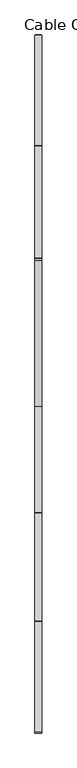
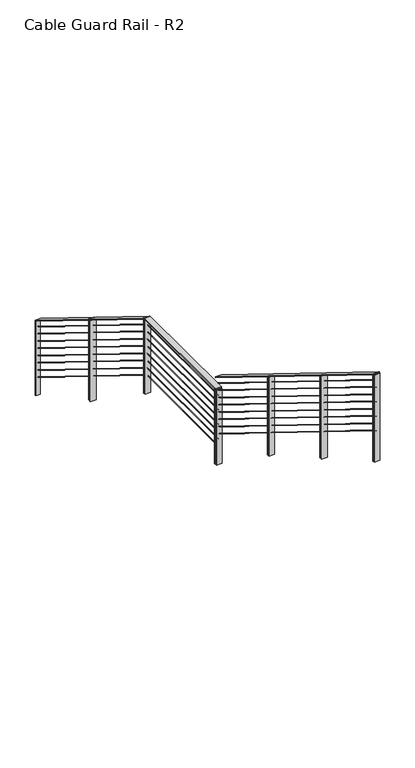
"""IFC4 building model written with IfcOpenShell, lengths in millimetres: railing geometry, Cable Guard Rail - R2."""

from ifc_helpers import new_model, si_unit, frame, origin, place, context, project, spatial, polyline, ellipse_curve, outline, extrude, faceted_brep, source, transform, mapped, element, save
from ifc_brep_helpers import plane_surface, cylinder_surface, advanced_brep


def cable_guard_rail_r2_ad3334e2(model_context):
    return source(origin(), model_context, "Body", "SolidModel", [
        faceted_brep([(37093.0654546, 230739.7703252, 291923.2583333), (37093.0654546, 230739.7703252, 291908.3326576), (37016.8654546, 230739.7703252, 291908.3326576), (37016.8654546, 230739.7703252, 291923.2583333), (37093.0654546, 228225.1703252, 293475.8333333), (37016.8654546, 228225.1703252, 293475.8333333), (37016.8654546, 228221.5655498, 293463.1333333), (37093.0654546, 228221.5655498, 293463.1333333)], [[[0, 1, 2, 3]], [[4, 5, 6, 7]], [[0, 3, 5, 4]], [[3, 2, 6, 5]], [[2, 1, 7, 6]], [[1, 0, 4, 7]]]),
        faceted_brep([(37093.0654546, 228225.1703252, 293475.8333333), (37093.0654546, 228221.5655498, 293463.1333333), (37016.8654546, 228221.5655498, 293463.1333333), (37016.8654546, 228225.1703252, 293475.8333333), (37093.0654546, 226588.7909796, 293475.8333333), (37016.8654546, 226588.7909796, 293475.8333333), (37016.8654546, 226585.1862042, 293463.1333333), (37093.0654546, 226585.1862042, 293463.1333333)], [[[0, 1, 2, 3]], [[4, 5, 6, 7]], [[0, 3, 5, 4]], [[3, 2, 6, 5]], [[2, 1, 7, 6]], [[1, 0, 4, 7]]]),
        faceted_brep([(37093.0654546, 226588.7909796, 293648.3416667), (37093.0654546, 226585.1862042, 293635.6416667), (37016.8654546, 226585.1862042, 293635.6416667), (37016.8654546, 226588.7909796, 293648.3416667), (37093.0654546, 222956.5909796, 295890.95), (37016.8654546, 222956.5909796, 295890.95), (37016.8654546, 222956.5909796, 295876.0243243), (37093.0654546, 222956.5909796, 295876.0243243)], [[[0, 1, 2, 3]], [[4, 5, 6, 7]], [[0, 3, 5, 4]], [[3, 2, 6, 5]], [[2, 1, 7, 6]], [[1, 0, 4, 7]]]),
        advanced_brep(
        [(37051.7904546, 230739.7703252, 291821.6583333), (37058.1404546, 230739.7703252, 291821.6583333), (37051.7904546, 228225.1703252, 293374.2333333), (37058.1404546, 228225.1703252, 293374.2333333)],
        [
            (0, 1, ellipse_curve(frame((37054.9654546, 230739.7703252, 291821.6583333), z_axis=(0.0, 1.0, 0.0), x_axis=(0.0, 0.0, -1.0)), 3.7314189, 3.175)),
            (1, 0, ellipse_curve(frame((37054.9654546, 230739.7703252, 291821.6583333), z_axis=(0.0, 1.0, 0.0), x_axis=(0.0, 0.0, -1.0)), 3.7314189, 3.175)),
            (2, 3, ellipse_curve(frame((37054.9654546, 228225.1703252, 293374.2333333), z_axis=(0.0, -0.9619986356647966, 0.2730542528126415), x_axis=(0.0, -0.2730542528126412, -0.9619986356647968)), 3.3004205, 3.175)),
            (3, 2, ellipse_curve(frame((37054.9654546, 228225.1703252, 293374.2333333), z_axis=(0.0, -0.9619986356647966, 0.2730542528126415), x_axis=(0.0, -0.2730542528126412, -0.9619986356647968)), 3.3004205, 3.175)),
            (1, 3),
            (2, 0),
        ],
        [
            plane_surface(frame((37054.9654546, 230739.7703252, 291821.6583333), z_axis=(0.0, 1.0, 0.0), x_axis=(0.0, 0.0, -1.0))),
            plane_surface(frame((37054.9654546, 228225.1703252, 293374.2333333), z_axis=(0.0, -0.9619986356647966, 0.2730542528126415), x_axis=(1.0, 0.0, 0.0))),
            cylinder_surface(frame((37054.9654546, 230739.7703252, 291821.6583333), z_axis=(0.0, 0.8508827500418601, -0.5253556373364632), x_axis=(1.0, 0.0, 0.0)), 3.175),
        ],
        [
            (0, [[1, 2]]),
            (1, [[3, 4]]),
            (2, [[-2, 5, -3, 6]]),
            (2, [[-1, -6, -4, -5]]),
        ],
    ),
        advanced_brep(
        [(37051.7904546, 228225.1703252, 293374.2333333), (37058.1404546, 228225.1703252, 293374.2333333), (37051.7904546, 226588.7909796, 293374.2333333), (37058.1404546, 226588.7909796, 293374.2333333)],
        [
            (0, 1, ellipse_curve(frame((37054.9654546, 228225.1703252, 293374.2333333), z_axis=(0.0, 0.9619986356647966, -0.2730542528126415), x_axis=(0.0, 0.27305425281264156, 0.9619986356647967)), 3.3004205, 3.175)),
            (1, 0, ellipse_curve(frame((37054.9654546, 228225.1703252, 293374.2333333), z_axis=(0.0, 0.9619986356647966, -0.2730542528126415), x_axis=(0.0, 0.27305425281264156, 0.9619986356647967)), 3.3004205, 3.175)),
            (2, 3, ellipse_curve(frame((37054.9654546, 226588.7909796, 293374.2333333), z_axis=(0.0, -0.9619986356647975, 0.27305425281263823), x_axis=(0.0, 0.27305425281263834, 0.9619986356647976)), 3.3004205, 3.175)),
            (3, 2, ellipse_curve(frame((37054.9654546, 226588.7909796, 293374.2333333), z_axis=(0.0, -0.9619986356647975, 0.27305425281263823), x_axis=(0.0, 0.27305425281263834, 0.9619986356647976)), 3.3004205, 3.175)),
            (1, 3),
            (2, 0),
        ],
        [
            plane_surface(frame((37054.9654546, 228225.1703252, 293374.2333333), z_axis=(0.0, 0.9619986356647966, -0.2730542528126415), x_axis=(1.0, 0.0, 0.0))),
            plane_surface(frame((37054.9654546, 226588.7909796, 293374.2333333), z_axis=(0.0, -0.9619986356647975, 0.27305425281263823), x_axis=(1.0, 0.0, 0.0))),
            cylinder_surface(frame((37054.9654546, 228225.1703252, 293374.2333333), z_axis=(0.0, 1.0, 0.0), x_axis=(1.0, 0.0, 0.0)), 3.175),
        ],
        [
            (0, [[1, 2]]),
            (1, [[3, 4]]),
            (2, [[-2, 5, -3, 6]]),
            (2, [[-1, -6, -4, -5]]),
        ],
    ),
        advanced_brep(
        [(37051.7904546, 226588.7909796, 293546.7416667), (37058.1404546, 226588.7909796, 293546.7416667), (37051.7904546, 222956.5909796, 295789.35), (37058.1404546, 222956.5909796, 295789.35)],
        [
            (0, 1, ellipse_curve(frame((37054.9654546, 226588.7909796, 293546.7416667), z_axis=(0.0, 0.9619986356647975, -0.27305425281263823), x_axis=(0.0, -0.27305425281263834, -0.9619986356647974)), 3.3004205, 3.175)),
            (1, 0, ellipse_curve(frame((37054.9654546, 226588.7909796, 293546.7416667), z_axis=(0.0, 0.9619986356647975, -0.27305425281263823), x_axis=(0.0, -0.27305425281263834, -0.9619986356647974)), 3.3004205, 3.175)),
            (2, 3, ellipse_curve(frame((37054.9654546, 222956.5909796, 295789.35), z_axis=(0.0, -1.0, 0.0), x_axis=(0.0, 0.0, -1.0)), 3.7314189, 3.175)),
            (3, 2, ellipse_curve(frame((37054.9654546, 222956.5909796, 295789.35), z_axis=(0.0, -1.0, 0.0), x_axis=(0.0, 0.0, -1.0)), 3.7314189, 3.175)),
            (1, 3),
            (2, 0),
        ],
        [
            plane_surface(frame((37054.9654546, 226588.7909796, 293546.7416667), z_axis=(0.0, 0.9619986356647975, -0.27305425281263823), x_axis=(1.0, 0.0, 0.0))),
            plane_surface(frame((37054.9654546, 222956.5909796, 295789.35), z_axis=(0.0, -1.0, 0.0), x_axis=(0.0, 0.0, -1.0))),
            cylinder_surface(frame((37054.9654546, 226588.7909796, 293546.7416667), z_axis=(0.0, 0.8508827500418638, -0.5253556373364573), x_axis=(1.0, 0.0, 0.0)), 3.175),
        ],
        [
            (0, [[1, 2]]),
            (1, [[3, 4]]),
            (2, [[-2, 5, -3, 6]]),
            (2, [[-1, -6, -4, -5]]),
        ],
    ),
        advanced_brep(
        [(37051.7904546, 230739.7703252, 291720.0583333), (37058.1404546, 230739.7703252, 291720.0583333), (37051.7904546, 228225.1703252, 293272.6333333), (37058.1404546, 228225.1703252, 293272.6333333)],
        [
            (0, 1, ellipse_curve(frame((37054.9654546, 230739.7703252, 291720.0583333), z_axis=(0.0, 1.0, 0.0), x_axis=(0.0, 0.0, -1.0)), 3.7314189, 3.175)),
            (1, 0, ellipse_curve(frame((37054.9654546, 230739.7703252, 291720.0583333), z_axis=(0.0, 1.0, 0.0), x_axis=(0.0, 0.0, -1.0)), 3.7314189, 3.175)),
            (2, 3, ellipse_curve(frame((37054.9654546, 228225.1703252, 293272.6333333), z_axis=(0.0, -0.9619986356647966, 0.2730542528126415), x_axis=(0.0, -0.2730542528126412, -0.9619986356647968)), 3.3004205, 3.175)),
            (3, 2, ellipse_curve(frame((37054.9654546, 228225.1703252, 293272.6333333), z_axis=(0.0, -0.9619986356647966, 0.2730542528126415), x_axis=(0.0, -0.2730542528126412, -0.9619986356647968)), 3.3004205, 3.175)),
            (1, 3),
            (2, 0),
        ],
        [
            plane_surface(frame((37054.9654546, 230739.7703252, 291720.0583333), z_axis=(0.0, 1.0, 0.0), x_axis=(0.0, 0.0, -1.0))),
            plane_surface(frame((37054.9654546, 228225.1703252, 293272.6333333), z_axis=(0.0, -0.9619986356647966, 0.2730542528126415), x_axis=(1.0, 0.0, 0.0))),
            cylinder_surface(frame((37054.9654546, 230739.7703252, 291720.0583333), z_axis=(0.0, 0.8508827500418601, -0.5253556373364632), x_axis=(1.0, 0.0, 0.0)), 3.175),
        ],
        [
            (0, [[1, 2]]),
            (1, [[3, 4]]),
            (2, [[-2, 5, -3, 6]]),
            (2, [[-1, -6, -4, -5]]),
        ],
    ),
        advanced_brep(
        [(37051.7904546, 228225.1703252, 293272.6333333), (37058.1404546, 228225.1703252, 293272.6333333), (37051.7904546, 226588.7909796, 293272.6333333), (37058.1404546, 226588.7909796, 293272.6333333)],
        [
            (0, 1, ellipse_curve(frame((37054.9654546, 228225.1703252, 293272.6333333), z_axis=(0.0, 0.9619986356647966, -0.2730542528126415), x_axis=(0.0, 0.27305425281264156, 0.9619986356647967)), 3.3004205, 3.175)),
            (1, 0, ellipse_curve(frame((37054.9654546, 228225.1703252, 293272.6333333), z_axis=(0.0, 0.9619986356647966, -0.2730542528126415), x_axis=(0.0, 0.27305425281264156, 0.9619986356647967)), 3.3004205, 3.175)),
            (2, 3, ellipse_curve(frame((37054.9654546, 226588.7909796, 293272.6333333), z_axis=(0.0, -0.9619986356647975, 0.27305425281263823), x_axis=(0.0, 0.27305425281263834, 0.9619986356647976)), 3.3004205, 3.175)),
            (3, 2, ellipse_curve(frame((37054.9654546, 226588.7909796, 293272.6333333), z_axis=(0.0, -0.9619986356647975, 0.27305425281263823), x_axis=(0.0, 0.27305425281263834, 0.9619986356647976)), 3.3004205, 3.175)),
            (1, 3),
            (2, 0),
        ],
        [
            plane_surface(frame((37054.9654546, 228225.1703252, 293272.6333333), z_axis=(0.0, 0.9619986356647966, -0.2730542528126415), x_axis=(1.0, 0.0, 0.0))),
            plane_surface(frame((37054.9654546, 226588.7909796, 293272.6333333), z_axis=(0.0, -0.9619986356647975, 0.27305425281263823), x_axis=(1.0, 0.0, 0.0))),
            cylinder_surface(frame((37054.9654546, 228225.1703252, 293272.6333333), z_axis=(0.0, 1.0, 0.0), x_axis=(1.0, 0.0, 0.0)), 3.175),
        ],
        [
            (0, [[1, 2]]),
            (1, [[3, 4]]),
            (2, [[-2, 5, -3, 6]]),
            (2, [[-1, -6, -4, -5]]),
        ],
    ),
        advanced_brep(
        [(37051.7904546, 226588.7909796, 293445.1416667), (37058.1404546, 226588.7909796, 293445.1416667), (37051.7904546, 222956.5909796, 295687.75), (37058.1404546, 222956.5909796, 295687.75)],
        [
            (0, 1, ellipse_curve(frame((37054.9654546, 226588.7909796, 293445.1416667), z_axis=(0.0, 0.9619986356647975, -0.27305425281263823), x_axis=(0.0, -0.27305425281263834, -0.9619986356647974)), 3.3004205, 3.175)),
            (1, 0, ellipse_curve(frame((37054.9654546, 226588.7909796, 293445.1416667), z_axis=(0.0, 0.9619986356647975, -0.27305425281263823), x_axis=(0.0, -0.27305425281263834, -0.9619986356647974)), 3.3004205, 3.175)),
            (2, 3, ellipse_curve(frame((37054.9654546, 222956.5909796, 295687.75), z_axis=(0.0, -1.0, 0.0), x_axis=(0.0, 0.0, -1.0)), 3.7314189, 3.175)),
            (3, 2, ellipse_curve(frame((37054.9654546, 222956.5909796, 295687.75), z_axis=(0.0, -1.0, 0.0), x_axis=(0.0, 0.0, -1.0)), 3.7314189, 3.175)),
            (1, 3),
            (2, 0),
        ],
        [
            plane_surface(frame((37054.9654546, 226588.7909796, 293445.1416667), z_axis=(0.0, 0.9619986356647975, -0.27305425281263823), x_axis=(1.0, 0.0, 0.0))),
            plane_surface(frame((37054.9654546, 222956.5909796, 295687.75), z_axis=(0.0, -1.0, 0.0), x_axis=(0.0, 0.0, -1.0))),
            cylinder_surface(frame((37054.9654546, 226588.7909796, 293445.1416667), z_axis=(0.0, 0.8508827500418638, -0.5253556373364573), x_axis=(1.0, 0.0, 0.0)), 3.175),
        ],
        [
            (0, [[1, 2]]),
            (1, [[3, 4]]),
            (2, [[-2, 5, -3, 6]]),
            (2, [[-1, -6, -4, -5]]),
        ],
    ),
        advanced_brep(
        [(37051.7904546, 230739.7703252, 291618.4583333), (37058.1404546, 230739.7703252, 291618.4583333), (37051.7904546, 228225.1703252, 293171.0333333), (37058.1404546, 228225.1703252, 293171.0333333)],
        [
            (0, 1, ellipse_curve(frame((37054.9654546, 230739.7703252, 291618.4583333), z_axis=(0.0, 1.0, 0.0), x_axis=(0.0, 0.0, -1.0)), 3.7314189, 3.175)),
            (1, 0, ellipse_curve(frame((37054.9654546, 230739.7703252, 291618.4583333), z_axis=(0.0, 1.0, 0.0), x_axis=(0.0, 0.0, -1.0)), 3.7314189, 3.175)),
            (2, 3, ellipse_curve(frame((37054.9654546, 228225.1703252, 293171.0333333), z_axis=(0.0, -0.9619986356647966, 0.2730542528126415), x_axis=(0.0, -0.2730542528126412, -0.9619986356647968)), 3.3004205, 3.175)),
            (3, 2, ellipse_curve(frame((37054.9654546, 228225.1703252, 293171.0333333), z_axis=(0.0, -0.9619986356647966, 0.2730542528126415), x_axis=(0.0, -0.2730542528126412, -0.9619986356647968)), 3.3004205, 3.175)),
            (1, 3),
            (2, 0),
        ],
        [
            plane_surface(frame((37054.9654546, 230739.7703252, 291618.4583333), z_axis=(0.0, 1.0, 0.0), x_axis=(0.0, 0.0, -1.0))),
            plane_surface(frame((37054.9654546, 228225.1703252, 293171.0333333), z_axis=(0.0, -0.9619986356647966, 0.2730542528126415), x_axis=(1.0, 0.0, 0.0))),
            cylinder_surface(frame((37054.9654546, 230739.7703252, 291618.4583333), z_axis=(0.0, 0.8508827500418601, -0.5253556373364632), x_axis=(1.0, 0.0, 0.0)), 3.175),
        ],
        [
            (0, [[1, 2]]),
            (1, [[3, 4]]),
            (2, [[-2, 5, -3, 6]]),
            (2, [[-1, -6, -4, -5]]),
        ],
    ),
        advanced_brep(
        [(37051.7904546, 228225.1703252, 293171.0333333), (37058.1404546, 228225.1703252, 293171.0333333), (37051.7904546, 226588.7909796, 293171.0333333), (37058.1404546, 226588.7909796, 293171.0333333)],
        [
            (0, 1, ellipse_curve(frame((37054.9654546, 228225.1703252, 293171.0333333), z_axis=(0.0, 0.9619986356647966, -0.2730542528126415), x_axis=(0.0, 0.27305425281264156, 0.9619986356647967)), 3.3004205, 3.175)),
            (1, 0, ellipse_curve(frame((37054.9654546, 228225.1703252, 293171.0333333), z_axis=(0.0, 0.9619986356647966, -0.2730542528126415), x_axis=(0.0, 0.27305425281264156, 0.9619986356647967)), 3.3004205, 3.175)),
            (2, 3, ellipse_curve(frame((37054.9654546, 226588.7909796, 293171.0333333), z_axis=(0.0, -0.9619986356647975, 0.27305425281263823), x_axis=(0.0, 0.27305425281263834, 0.9619986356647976)), 3.3004205, 3.175)),
            (3, 2, ellipse_curve(frame((37054.9654546, 226588.7909796, 293171.0333333), z_axis=(0.0, -0.9619986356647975, 0.27305425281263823), x_axis=(0.0, 0.27305425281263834, 0.9619986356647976)), 3.3004205, 3.175)),
            (1, 3),
            (2, 0),
        ],
        [
            plane_surface(frame((37054.9654546, 228225.1703252, 293171.0333333), z_axis=(0.0, 0.9619986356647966, -0.2730542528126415), x_axis=(1.0, 0.0, 0.0))),
            plane_surface(frame((37054.9654546, 226588.7909796, 293171.0333333), z_axis=(0.0, -0.9619986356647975, 0.27305425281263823), x_axis=(1.0, 0.0, 0.0))),
            cylinder_surface(frame((37054.9654546, 228225.1703252, 293171.0333333), z_axis=(0.0, 1.0, 0.0), x_axis=(1.0, 0.0, 0.0)), 3.175),
        ],
        [
            (0, [[1, 2]]),
            (1, [[3, 4]]),
            (2, [[-2, 5, -3, 6]]),
            (2, [[-1, -6, -4, -5]]),
        ],
    ),
        advanced_brep(
        [(37051.7904546, 226588.7909796, 293343.5416667), (37058.1404546, 226588.7909796, 293343.5416667), (37051.7904546, 222956.5909796, 295586.15), (37058.1404546, 222956.5909796, 295586.15)],
        [
            (0, 1, ellipse_curve(frame((37054.9654546, 226588.7909796, 293343.5416667), z_axis=(0.0, 0.9619986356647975, -0.27305425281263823), x_axis=(0.0, -0.27305425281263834, -0.9619986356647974)), 3.3004205, 3.175)),
            (1, 0, ellipse_curve(frame((37054.9654546, 226588.7909796, 293343.5416667), z_axis=(0.0, 0.9619986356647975, -0.27305425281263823), x_axis=(0.0, -0.27305425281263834, -0.9619986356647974)), 3.3004205, 3.175)),
            (2, 3, ellipse_curve(frame((37054.9654546, 222956.5909796, 295586.15), z_axis=(0.0, -1.0, 0.0), x_axis=(0.0, 0.0, -1.0)), 3.7314189, 3.175)),
            (3, 2, ellipse_curve(frame((37054.9654546, 222956.5909796, 295586.15), z_axis=(0.0, -1.0, 0.0), x_axis=(0.0, 0.0, -1.0)), 3.7314189, 3.175)),
            (1, 3),
            (2, 0),
        ],
        [
            plane_surface(frame((37054.9654546, 226588.7909796, 293343.5416667), z_axis=(0.0, 0.9619986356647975, -0.27305425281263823), x_axis=(1.0, 0.0, 0.0))),
            plane_surface(frame((37054.9654546, 222956.5909796, 295586.15), z_axis=(0.0, -1.0, 0.0), x_axis=(0.0, 0.0, -1.0))),
            cylinder_surface(frame((37054.9654546, 226588.7909796, 293343.5416667), z_axis=(0.0, 0.8508827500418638, -0.5253556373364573), x_axis=(1.0, 0.0, 0.0)), 3.175),
        ],
        [
            (0, [[1, 2]]),
            (1, [[3, 4]]),
            (2, [[-2, 5, -3, 6]]),
            (2, [[-1, -6, -4, -5]]),
        ],
    ),
        advanced_brep(
        [(37051.7904546, 230739.7703252, 291516.8583333), (37058.1404546, 230739.7703252, 291516.8583333), (37051.7904546, 228225.1703252, 293069.4333333), (37058.1404546, 228225.1703252, 293069.4333333)],
        [
            (0, 1, ellipse_curve(frame((37054.9654546, 230739.7703252, 291516.8583333), z_axis=(0.0, 1.0, 0.0), x_axis=(0.0, 0.0, -1.0)), 3.7314189, 3.175)),
            (1, 0, ellipse_curve(frame((37054.9654546, 230739.7703252, 291516.8583333), z_axis=(0.0, 1.0, 0.0), x_axis=(0.0, 0.0, -1.0)), 3.7314189, 3.175)),
            (2, 3, ellipse_curve(frame((37054.9654546, 228225.1703252, 293069.4333333), z_axis=(0.0, -0.9619986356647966, 0.2730542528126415), x_axis=(0.0, -0.2730542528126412, -0.9619986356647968)), 3.3004205, 3.175)),
            (3, 2, ellipse_curve(frame((37054.9654546, 228225.1703252, 293069.4333333), z_axis=(0.0, -0.9619986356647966, 0.2730542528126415), x_axis=(0.0, -0.2730542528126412, -0.9619986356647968)), 3.3004205, 3.175)),
            (1, 3),
            (2, 0),
        ],
        [
            plane_surface(frame((37054.9654546, 230739.7703252, 291516.8583333), z_axis=(0.0, 1.0, 0.0), x_axis=(0.0, 0.0, -1.0))),
            plane_surface(frame((37054.9654546, 228225.1703252, 293069.4333333), z_axis=(0.0, -0.9619986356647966, 0.2730542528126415), x_axis=(1.0, 0.0, 0.0))),
            cylinder_surface(frame((37054.9654546, 230739.7703252, 291516.8583333), z_axis=(0.0, 0.8508827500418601, -0.5253556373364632), x_axis=(1.0, 0.0, 0.0)), 3.175),
        ],
        [
            (0, [[1, 2]]),
            (1, [[3, 4]]),
            (2, [[-2, 5, -3, 6]]),
            (2, [[-1, -6, -4, -5]]),
        ],
    ),
        advanced_brep(
        [(37051.7904546, 228225.1703252, 293069.4333333), (37058.1404546, 228225.1703252, 293069.4333333), (37051.7904546, 226588.7909796, 293069.4333333), (37058.1404546, 226588.7909796, 293069.4333333)],
        [
            (0, 1, ellipse_curve(frame((37054.9654546, 228225.1703252, 293069.4333333), z_axis=(0.0, 0.9619986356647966, -0.2730542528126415), x_axis=(0.0, 0.27305425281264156, 0.9619986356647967)), 3.3004205, 3.175)),
            (1, 0, ellipse_curve(frame((37054.9654546, 228225.1703252, 293069.4333333), z_axis=(0.0, 0.9619986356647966, -0.2730542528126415), x_axis=(0.0, 0.27305425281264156, 0.9619986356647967)), 3.3004205, 3.175)),
            (2, 3, ellipse_curve(frame((37054.9654546, 226588.7909796, 293069.4333333), z_axis=(0.0, -0.9619986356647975, 0.27305425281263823), x_axis=(0.0, 0.27305425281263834, 0.9619986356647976)), 3.3004205, 3.175)),
            (3, 2, ellipse_curve(frame((37054.9654546, 226588.7909796, 293069.4333333), z_axis=(0.0, -0.9619986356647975, 0.27305425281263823), x_axis=(0.0, 0.27305425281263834, 0.9619986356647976)), 3.3004205, 3.175)),
            (1, 3),
            (2, 0),
        ],
        [
            plane_surface(frame((37054.9654546, 228225.1703252, 293069.4333333), z_axis=(0.0, 0.9619986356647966, -0.2730542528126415), x_axis=(1.0, 0.0, 0.0))),
            plane_surface(frame((37054.9654546, 226588.7909796, 293069.4333333), z_axis=(0.0, -0.9619986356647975, 0.27305425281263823), x_axis=(1.0, 0.0, 0.0))),
            cylinder_surface(frame((37054.9654546, 228225.1703252, 293069.4333333), z_axis=(0.0, 1.0, 0.0), x_axis=(1.0, 0.0, 0.0)), 3.175),
        ],
        [
            (0, [[1, 2]]),
            (1, [[3, 4]]),
            (2, [[-2, 5, -3, 6]]),
            (2, [[-1, -6, -4, -5]]),
        ],
    ),
        advanced_brep(
        [(37051.7904546, 226588.7909796, 293241.9416667), (37058.1404546, 226588.7909796, 293241.9416667), (37051.7904546, 222956.5909796, 295484.55), (37058.1404546, 222956.5909796, 295484.55)],
        [
            (0, 1, ellipse_curve(frame((37054.9654546, 226588.7909796, 293241.9416667), z_axis=(0.0, 0.9619986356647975, -0.27305425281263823), x_axis=(0.0, -0.27305425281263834, -0.9619986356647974)), 3.3004205, 3.175)),
            (1, 0, ellipse_curve(frame((37054.9654546, 226588.7909796, 293241.9416667), z_axis=(0.0, 0.9619986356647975, -0.27305425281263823), x_axis=(0.0, -0.27305425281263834, -0.9619986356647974)), 3.3004205, 3.175)),
            (2, 3, ellipse_curve(frame((37054.9654546, 222956.5909796, 295484.55), z_axis=(0.0, -1.0, 0.0), x_axis=(0.0, 0.0, -1.0)), 3.7314189, 3.175)),
            (3, 2, ellipse_curve(frame((37054.9654546, 222956.5909796, 295484.55), z_axis=(0.0, -1.0, 0.0), x_axis=(0.0, 0.0, -1.0)), 3.7314189, 3.175)),
            (1, 3),
            (2, 0),
        ],
        [
            plane_surface(frame((37054.9654546, 226588.7909796, 293241.9416667), z_axis=(0.0, 0.9619986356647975, -0.27305425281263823), x_axis=(1.0, 0.0, 0.0))),
            plane_surface(frame((37054.9654546, 222956.5909796, 295484.55), z_axis=(0.0, -1.0, 0.0), x_axis=(0.0, 0.0, -1.0))),
            cylinder_surface(frame((37054.9654546, 226588.7909796, 293241.9416667), z_axis=(0.0, 0.8508827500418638, -0.5253556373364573), x_axis=(1.0, 0.0, 0.0)), 3.175),
        ],
        [
            (0, [[1, 2]]),
            (1, [[3, 4]]),
            (2, [[-2, 5, -3, 6]]),
            (2, [[-1, -6, -4, -5]]),
        ],
    ),
        advanced_brep(
        [(37051.7904546, 230739.7703252, 291415.2583333), (37058.1404546, 230739.7703252, 291415.2583333), (37051.7904546, 228225.1703252, 292967.8333333), (37058.1404546, 228225.1703252, 292967.8333333)],
        [
            (0, 1, ellipse_curve(frame((37054.9654546, 230739.7703252, 291415.2583333), z_axis=(0.0, 1.0, 0.0), x_axis=(0.0, 0.0, -1.0)), 3.7314189, 3.175)),
            (1, 0, ellipse_curve(frame((37054.9654546, 230739.7703252, 291415.2583333), z_axis=(0.0, 1.0, 0.0), x_axis=(0.0, 0.0, -1.0)), 3.7314189, 3.175)),
            (2, 3, ellipse_curve(frame((37054.9654546, 228225.1703252, 292967.8333333), z_axis=(0.0, -0.9619986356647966, 0.2730542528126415), x_axis=(0.0, -0.2730542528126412, -0.9619986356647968)), 3.3004205, 3.175)),
            (3, 2, ellipse_curve(frame((37054.9654546, 228225.1703252, 292967.8333333), z_axis=(0.0, -0.9619986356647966, 0.2730542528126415), x_axis=(0.0, -0.2730542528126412, -0.9619986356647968)), 3.3004205, 3.175)),
            (1, 3),
            (2, 0),
        ],
        [
            plane_surface(frame((37054.9654546, 230739.7703252, 291415.2583333), z_axis=(0.0, 1.0, 0.0), x_axis=(0.0, 0.0, -1.0))),
            plane_surface(frame((37054.9654546, 228225.1703252, 292967.8333333), z_axis=(0.0, -0.9619986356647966, 0.2730542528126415), x_axis=(1.0, 0.0, 0.0))),
            cylinder_surface(frame((37054.9654546, 230739.7703252, 291415.2583333), z_axis=(0.0, 0.8508827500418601, -0.5253556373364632), x_axis=(1.0, 0.0, 0.0)), 3.175),
        ],
        [
            (0, [[1, 2]]),
            (1, [[3, 4]]),
            (2, [[-2, 5, -3, 6]]),
            (2, [[-1, -6, -4, -5]]),
        ],
    ),
        advanced_brep(
        [(37051.7904546, 228225.1703252, 292967.8333333), (37058.1404546, 228225.1703252, 292967.8333333), (37051.7904546, 226588.7909796, 292967.8333333), (37058.1404546, 226588.7909796, 292967.8333333)],
        [
            (0, 1, ellipse_curve(frame((37054.9654546, 228225.1703252, 292967.8333333), z_axis=(0.0, 0.9619986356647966, -0.2730542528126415), x_axis=(0.0, 0.27305425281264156, 0.9619986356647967)), 3.3004205, 3.175)),
            (1, 0, ellipse_curve(frame((37054.9654546, 228225.1703252, 292967.8333333), z_axis=(0.0, 0.9619986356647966, -0.2730542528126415), x_axis=(0.0, 0.27305425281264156, 0.9619986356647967)), 3.3004205, 3.175)),
            (2, 3, ellipse_curve(frame((37054.9654546, 226588.7909796, 292967.8333333), z_axis=(0.0, -0.9619986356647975, 0.27305425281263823), x_axis=(0.0, 0.27305425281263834, 0.9619986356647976)), 3.3004205, 3.175)),
            (3, 2, ellipse_curve(frame((37054.9654546, 226588.7909796, 292967.8333333), z_axis=(0.0, -0.9619986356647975, 0.27305425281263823), x_axis=(0.0, 0.27305425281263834, 0.9619986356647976)), 3.3004205, 3.175)),
            (1, 3),
            (2, 0),
        ],
        [
            plane_surface(frame((37054.9654546, 228225.1703252, 292967.8333333), z_axis=(0.0, 0.9619986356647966, -0.2730542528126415), x_axis=(1.0, 0.0, 0.0))),
            plane_surface(frame((37054.9654546, 226588.7909796, 292967.8333333), z_axis=(0.0, -0.9619986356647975, 0.27305425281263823), x_axis=(1.0, 0.0, 0.0))),
            cylinder_surface(frame((37054.9654546, 228225.1703252, 292967.8333333), z_axis=(0.0, 1.0, 0.0), x_axis=(1.0, 0.0, 0.0)), 3.175),
        ],
        [
            (0, [[1, 2]]),
            (1, [[3, 4]]),
            (2, [[-2, 5, -3, 6]]),
            (2, [[-1, -6, -4, -5]]),
        ],
    ),
        advanced_brep(
        [(37051.7904546, 226588.7909796, 293140.3416667), (37058.1404546, 226588.7909796, 293140.3416667), (37051.7904546, 222956.5909796, 295382.95), (37058.1404546, 222956.5909796, 295382.95)],
        [
            (0, 1, ellipse_curve(frame((37054.9654546, 226588.7909796, 293140.3416667), z_axis=(0.0, 0.9619986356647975, -0.27305425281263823), x_axis=(0.0, -0.27305425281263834, -0.9619986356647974)), 3.3004205, 3.175)),
            (1, 0, ellipse_curve(frame((37054.9654546, 226588.7909796, 293140.3416667), z_axis=(0.0, 0.9619986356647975, -0.27305425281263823), x_axis=(0.0, -0.27305425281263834, -0.9619986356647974)), 3.3004205, 3.175)),
            (2, 3, ellipse_curve(frame((37054.9654546, 222956.5909796, 295382.95), z_axis=(0.0, -1.0, 0.0), x_axis=(0.0, 0.0, -1.0)), 3.7314189, 3.175)),
            (3, 2, ellipse_curve(frame((37054.9654546, 222956.5909796, 295382.95), z_axis=(0.0, -1.0, 0.0), x_axis=(0.0, 0.0, -1.0)), 3.7314189, 3.175)),
            (1, 3),
            (2, 0),
        ],
        [
            plane_surface(frame((37054.9654546, 226588.7909796, 293140.3416667), z_axis=(0.0, 0.9619986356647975, -0.27305425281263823), x_axis=(1.0, 0.0, 0.0))),
            plane_surface(frame((37054.9654546, 222956.5909796, 295382.95), z_axis=(0.0, -1.0, 0.0), x_axis=(0.0, 0.0, -1.0))),
            cylinder_surface(frame((37054.9654546, 226588.7909796, 293140.3416667), z_axis=(0.0, 0.8508827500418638, -0.5253556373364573), x_axis=(1.0, 0.0, 0.0)), 3.175),
        ],
        [
            (0, [[1, 2]]),
            (1, [[3, 4]]),
            (2, [[-2, 5, -3, 6]]),
            (2, [[-1, -6, -4, -5]]),
        ],
    ),
        advanced_brep(
        [(37051.7904546, 230739.7703252, 291313.6583333), (37058.1404546, 230739.7703252, 291313.6583333), (37051.7904546, 228225.1703252, 292866.2333333), (37058.1404546, 228225.1703252, 292866.2333333)],
        [
            (0, 1, ellipse_curve(frame((37054.9654546, 230739.7703252, 291313.6583333), z_axis=(0.0, 1.0, 0.0), x_axis=(0.0, 0.0, -1.0)), 3.7314189, 3.175)),
            (1, 0, ellipse_curve(frame((37054.9654546, 230739.7703252, 291313.6583333), z_axis=(0.0, 1.0, 0.0), x_axis=(0.0, 0.0, -1.0)), 3.7314189, 3.175)),
            (2, 3, ellipse_curve(frame((37054.9654546, 228225.1703252, 292866.2333333), z_axis=(0.0, -0.9619986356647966, 0.2730542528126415), x_axis=(0.0, -0.2730542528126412, -0.9619986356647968)), 3.3004205, 3.175)),
            (3, 2, ellipse_curve(frame((37054.9654546, 228225.1703252, 292866.2333333), z_axis=(0.0, -0.9619986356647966, 0.2730542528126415), x_axis=(0.0, -0.2730542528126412, -0.9619986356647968)), 3.3004205, 3.175)),
            (1, 3),
            (2, 0),
        ],
        [
            plane_surface(frame((37054.9654546, 230739.7703252, 291313.6583333), z_axis=(0.0, 1.0, 0.0), x_axis=(0.0, 0.0, -1.0))),
            plane_surface(frame((37054.9654546, 228225.1703252, 292866.2333333), z_axis=(0.0, -0.9619986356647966, 0.2730542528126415), x_axis=(1.0, 0.0, 0.0))),
            cylinder_surface(frame((37054.9654546, 230739.7703252, 291313.6583333), z_axis=(0.0, 0.8508827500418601, -0.5253556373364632), x_axis=(1.0, 0.0, 0.0)), 3.175),
        ],
        [
            (0, [[1, 2]]),
            (1, [[3, 4]]),
            (2, [[-2, 5, -3, 6]]),
            (2, [[-1, -6, -4, -5]]),
        ],
    ),
        advanced_brep(
        [(37051.7904546, 228225.1703252, 292866.2333333), (37058.1404546, 228225.1703252, 292866.2333333), (37051.7904546, 226588.7909796, 292866.2333333), (37058.1404546, 226588.7909796, 292866.2333333)],
        [
            (0, 1, ellipse_curve(frame((37054.9654546, 228225.1703252, 292866.2333333), z_axis=(0.0, 0.9619986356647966, -0.2730542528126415), x_axis=(0.0, 0.27305425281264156, 0.9619986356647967)), 3.3004205, 3.175)),
            (1, 0, ellipse_curve(frame((37054.9654546, 228225.1703252, 292866.2333333), z_axis=(0.0, 0.9619986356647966, -0.2730542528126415), x_axis=(0.0, 0.27305425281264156, 0.9619986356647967)), 3.3004205, 3.175)),
            (2, 3, ellipse_curve(frame((37054.9654546, 226588.7909796, 292866.2333333), z_axis=(0.0, -0.9619986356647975, 0.27305425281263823), x_axis=(0.0, 0.27305425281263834, 0.9619986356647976)), 3.3004205, 3.175)),
            (3, 2, ellipse_curve(frame((37054.9654546, 226588.7909796, 292866.2333333), z_axis=(0.0, -0.9619986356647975, 0.27305425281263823), x_axis=(0.0, 0.27305425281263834, 0.9619986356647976)), 3.3004205, 3.175)),
            (1, 3),
            (2, 0),
        ],
        [
            plane_surface(frame((37054.9654546, 228225.1703252, 292866.2333333), z_axis=(0.0, 0.9619986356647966, -0.2730542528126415), x_axis=(1.0, 0.0, 0.0))),
            plane_surface(frame((37054.9654546, 226588.7909796, 292866.2333333), z_axis=(0.0, -0.9619986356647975, 0.27305425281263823), x_axis=(1.0, 0.0, 0.0))),
            cylinder_surface(frame((37054.9654546, 228225.1703252, 292866.2333333), z_axis=(0.0, 1.0, 0.0), x_axis=(1.0, 0.0, 0.0)), 3.175),
        ],
        [
            (0, [[1, 2]]),
            (1, [[3, 4]]),
            (2, [[-2, 5, -3, 6]]),
            (2, [[-1, -6, -4, -5]]),
        ],
    ),
        advanced_brep(
        [(37051.7904546, 226588.7909796, 293038.7416667), (37058.1404546, 226588.7909796, 293038.7416667), (37051.7904546, 222956.5909796, 295281.35), (37058.1404546, 222956.5909796, 295281.35)],
        [
            (0, 1, ellipse_curve(frame((37054.9654546, 226588.7909796, 293038.7416667), z_axis=(0.0, 0.9619986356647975, -0.27305425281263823), x_axis=(0.0, -0.27305425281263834, -0.9619986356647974)), 3.3004205, 3.175)),
            (1, 0, ellipse_curve(frame((37054.9654546, 226588.7909796, 293038.7416667), z_axis=(0.0, 0.9619986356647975, -0.27305425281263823), x_axis=(0.0, -0.27305425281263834, -0.9619986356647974)), 3.3004205, 3.175)),
            (2, 3, ellipse_curve(frame((37054.9654546, 222956.5909796, 295281.35), z_axis=(0.0, -1.0, 0.0), x_axis=(0.0, 0.0, -1.0)), 3.7314189, 3.175)),
            (3, 2, ellipse_curve(frame((37054.9654546, 222956.5909796, 295281.35), z_axis=(0.0, -1.0, 0.0), x_axis=(0.0, 0.0, -1.0)), 3.7314189, 3.175)),
            (1, 3),
            (2, 0),
        ],
        [
            plane_surface(frame((37054.9654546, 226588.7909796, 293038.7416667), z_axis=(0.0, 0.9619986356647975, -0.27305425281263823), x_axis=(1.0, 0.0, 0.0))),
            plane_surface(frame((37054.9654546, 222956.5909796, 295281.35), z_axis=(0.0, -1.0, 0.0), x_axis=(0.0, 0.0, -1.0))),
            cylinder_surface(frame((37054.9654546, 226588.7909796, 293038.7416667), z_axis=(0.0, 0.8508827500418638, -0.5253556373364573), x_axis=(1.0, 0.0, 0.0)), 3.175),
        ],
        [
            (0, [[1, 2]]),
            (1, [[3, 4]]),
            (2, [[-2, 5, -3, 6]]),
            (2, [[-1, -6, -4, -5]]),
        ],
    ),
        advanced_brep(
        [(37051.7904546, 230739.7703252, 291212.0583333), (37058.1404546, 230739.7703252, 291212.0583333), (37051.7904546, 228225.1703252, 292764.6333333), (37058.1404546, 228225.1703252, 292764.6333333)],
        [
            (0, 1, ellipse_curve(frame((37054.9654546, 230739.7703252, 291212.0583333), z_axis=(0.0, 1.0, 0.0), x_axis=(0.0, 0.0, -1.0)), 3.7314189, 3.175)),
            (1, 0, ellipse_curve(frame((37054.9654546, 230739.7703252, 291212.0583333), z_axis=(0.0, 1.0, 0.0), x_axis=(0.0, 0.0, -1.0)), 3.7314189, 3.175)),
            (2, 3, ellipse_curve(frame((37054.9654546, 228225.1703252, 292764.6333333), z_axis=(0.0, -0.9619986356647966, 0.2730542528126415), x_axis=(0.0, -0.2730542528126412, -0.9619986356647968)), 3.3004205, 3.175)),
            (3, 2, ellipse_curve(frame((37054.9654546, 228225.1703252, 292764.6333333), z_axis=(0.0, -0.9619986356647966, 0.2730542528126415), x_axis=(0.0, -0.2730542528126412, -0.9619986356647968)), 3.3004205, 3.175)),
            (1, 3),
            (2, 0),
        ],
        [
            plane_surface(frame((37054.9654546, 230739.7703252, 291212.0583333), z_axis=(0.0, 1.0, 0.0), x_axis=(0.0, 0.0, -1.0))),
            plane_surface(frame((37054.9654546, 228225.1703252, 292764.6333333), z_axis=(0.0, -0.9619986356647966, 0.2730542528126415), x_axis=(1.0, 0.0, 0.0))),
            cylinder_surface(frame((37054.9654546, 230739.7703252, 291212.0583333), z_axis=(0.0, 0.8508827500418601, -0.5253556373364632), x_axis=(1.0, 0.0, 0.0)), 3.175),
        ],
        [
            (0, [[1, 2]]),
            (1, [[3, 4]]),
            (2, [[-2, 5, -3, 6]]),
            (2, [[-1, -6, -4, -5]]),
        ],
    ),
        advanced_brep(
        [(37051.7904546, 228225.1703252, 292764.6333333), (37058.1404546, 228225.1703252, 292764.6333333), (37051.7904546, 226588.7909796, 292764.6333333), (37058.1404546, 226588.7909796, 292764.6333333)],
        [
            (0, 1, ellipse_curve(frame((37054.9654546, 228225.1703252, 292764.6333333), z_axis=(0.0, 0.9619986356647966, -0.2730542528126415), x_axis=(0.0, 0.27305425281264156, 0.9619986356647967)), 3.3004205, 3.175)),
            (1, 0, ellipse_curve(frame((37054.9654546, 228225.1703252, 292764.6333333), z_axis=(0.0, 0.9619986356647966, -0.2730542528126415), x_axis=(0.0, 0.27305425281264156, 0.9619986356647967)), 3.3004205, 3.175)),
            (2, 3, ellipse_curve(frame((37054.9654546, 226588.7909796, 292764.6333333), z_axis=(0.0, -0.9619986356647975, 0.27305425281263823), x_axis=(0.0, 0.27305425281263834, 0.9619986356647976)), 3.3004205, 3.175)),
            (3, 2, ellipse_curve(frame((37054.9654546, 226588.7909796, 292764.6333333), z_axis=(0.0, -0.9619986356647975, 0.27305425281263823), x_axis=(0.0, 0.27305425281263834, 0.9619986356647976)), 3.3004205, 3.175)),
            (1, 3),
            (2, 0),
        ],
        [
            plane_surface(frame((37054.9654546, 228225.1703252, 292764.6333333), z_axis=(0.0, 0.9619986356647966, -0.2730542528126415), x_axis=(1.0, 0.0, 0.0))),
            plane_surface(frame((37054.9654546, 226588.7909796, 292764.6333333), z_axis=(0.0, -0.9619986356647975, 0.27305425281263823), x_axis=(1.0, 0.0, 0.0))),
            cylinder_surface(frame((37054.9654546, 228225.1703252, 292764.6333333), z_axis=(0.0, 1.0, 0.0), x_axis=(1.0, 0.0, 0.0)), 3.175),
        ],
        [
            (0, [[1, 2]]),
            (1, [[3, 4]]),
            (2, [[-2, 5, -3, 6]]),
            (2, [[-1, -6, -4, -5]]),
        ],
    ),
        advanced_brep(
        [(37051.7904546, 226588.7909796, 292937.1416667), (37058.1404546, 226588.7909796, 292937.1416667), (37051.7904546, 222956.5909796, 295179.75), (37058.1404546, 222956.5909796, 295179.75)],
        [
            (0, 1, ellipse_curve(frame((37054.9654546, 226588.7909796, 292937.1416667), z_axis=(0.0, 0.9619986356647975, -0.27305425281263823), x_axis=(0.0, -0.27305425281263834, -0.9619986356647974)), 3.3004205, 3.175)),
            (1, 0, ellipse_curve(frame((37054.9654546, 226588.7909796, 292937.1416667), z_axis=(0.0, 0.9619986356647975, -0.27305425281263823), x_axis=(0.0, -0.27305425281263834, -0.9619986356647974)), 3.3004205, 3.175)),
            (2, 3, ellipse_curve(frame((37054.9654546, 222956.5909796, 295179.75), z_axis=(0.0, -1.0, 0.0), x_axis=(0.0, 0.0, -1.0)), 3.7314189, 3.175)),
            (3, 2, ellipse_curve(frame((37054.9654546, 222956.5909796, 295179.75), z_axis=(0.0, -1.0, 0.0), x_axis=(0.0, 0.0, -1.0)), 3.7314189, 3.175)),
            (1, 3),
            (2, 0),
        ],
        [
            plane_surface(frame((37054.9654546, 226588.7909796, 292937.1416667), z_axis=(0.0, 0.9619986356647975, -0.27305425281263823), x_axis=(1.0, 0.0, 0.0))),
            plane_surface(frame((37054.9654546, 222956.5909796, 295179.75), z_axis=(0.0, -1.0, 0.0), x_axis=(0.0, 0.0, -1.0))),
            cylinder_surface(frame((37054.9654546, 226588.7909796, 292937.1416667), z_axis=(0.0, 0.8508827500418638, -0.5253556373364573), x_axis=(1.0, 0.0, 0.0)), 3.175),
        ],
        [
            (0, [[1, 2]]),
            (1, [[3, 4]]),
            (2, [[-2, 5, -3, 6]]),
            (2, [[-1, -6, -4, -5]]),
        ],
    ),
        advanced_brep(
        [(37051.7904546, 230739.7703252, 291110.4583333), (37058.1404546, 230739.7703252, 291110.4583333), (37051.7904546, 228225.1703252, 292663.0333333), (37058.1404546, 228225.1703252, 292663.0333333)],
        [
            (0, 1, ellipse_curve(frame((37054.9654546, 230739.7703252, 291110.4583333), z_axis=(0.0, 1.0, 0.0), x_axis=(0.0, 0.0, -1.0)), 3.7314189, 3.175)),
            (1, 0, ellipse_curve(frame((37054.9654546, 230739.7703252, 291110.4583333), z_axis=(0.0, 1.0, 0.0), x_axis=(0.0, 0.0, -1.0)), 3.7314189, 3.175)),
            (2, 3, ellipse_curve(frame((37054.9654546, 228225.1703252, 292663.0333333), z_axis=(0.0, -0.9619986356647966, 0.2730542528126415), x_axis=(0.0, -0.2730542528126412, -0.9619986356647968)), 3.3004205, 3.175)),
            (3, 2, ellipse_curve(frame((37054.9654546, 228225.1703252, 292663.0333333), z_axis=(0.0, -0.9619986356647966, 0.2730542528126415), x_axis=(0.0, -0.2730542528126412, -0.9619986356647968)), 3.3004205, 3.175)),
            (1, 3),
            (2, 0),
        ],
        [
            plane_surface(frame((37054.9654546, 230739.7703252, 291110.4583333), z_axis=(0.0, 1.0, 0.0), x_axis=(0.0, 0.0, -1.0))),
            plane_surface(frame((37054.9654546, 228225.1703252, 292663.0333333), z_axis=(0.0, -0.9619986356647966, 0.2730542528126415), x_axis=(1.0, 0.0, 0.0))),
            cylinder_surface(frame((37054.9654546, 230739.7703252, 291110.4583333), z_axis=(0.0, 0.8508827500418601, -0.5253556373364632), x_axis=(1.0, 0.0, 0.0)), 3.175),
        ],
        [
            (0, [[1, 2]]),
            (1, [[3, 4]]),
            (2, [[-2, 5, -3, 6]]),
            (2, [[-1, -6, -4, -5]]),
        ],
    ),
        advanced_brep(
        [(37051.7904546, 228225.1703252, 292663.0333333), (37058.1404546, 228225.1703252, 292663.0333333), (37051.7904546, 226588.7909796, 292663.0333333), (37058.1404546, 226588.7909796, 292663.0333333)],
        [
            (0, 1, ellipse_curve(frame((37054.9654546, 228225.1703252, 292663.0333333), z_axis=(0.0, 0.9619986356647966, -0.2730542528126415), x_axis=(0.0, 0.27305425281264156, 0.9619986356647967)), 3.3004205, 3.175)),
            (1, 0, ellipse_curve(frame((37054.9654546, 228225.1703252, 292663.0333333), z_axis=(0.0, 0.9619986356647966, -0.2730542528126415), x_axis=(0.0, 0.27305425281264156, 0.9619986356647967)), 3.3004205, 3.175)),
            (2, 3, ellipse_curve(frame((37054.9654546, 226588.7909796, 292663.0333333), z_axis=(0.0, -0.9619986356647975, 0.27305425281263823), x_axis=(0.0, 0.27305425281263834, 0.9619986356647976)), 3.3004205, 3.175)),
            (3, 2, ellipse_curve(frame((37054.9654546, 226588.7909796, 292663.0333333), z_axis=(0.0, -0.9619986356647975, 0.27305425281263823), x_axis=(0.0, 0.27305425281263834, 0.9619986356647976)), 3.3004205, 3.175)),
            (1, 3),
            (2, 0),
        ],
        [
            plane_surface(frame((37054.9654546, 228225.1703252, 292663.0333333), z_axis=(0.0, 0.9619986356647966, -0.2730542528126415), x_axis=(1.0, 0.0, 0.0))),
            plane_surface(frame((37054.9654546, 226588.7909796, 292663.0333333), z_axis=(0.0, -0.9619986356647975, 0.27305425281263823), x_axis=(1.0, 0.0, 0.0))),
            cylinder_surface(frame((37054.9654546, 228225.1703252, 292663.0333333), z_axis=(0.0, 1.0, 0.0), x_axis=(1.0, 0.0, 0.0)), 3.175),
        ],
        [
            (0, [[1, 2]]),
            (1, [[3, 4]]),
            (2, [[-2, 5, -3, 6]]),
            (2, [[-1, -6, -4, -5]]),
        ],
    ),
        advanced_brep(
        [(37051.7904546, 226588.7909796, 292835.5416667), (37058.1404546, 226588.7909796, 292835.5416667), (37051.7904546, 222956.5909796, 295078.15), (37058.1404546, 222956.5909796, 295078.15)],
        [
            (0, 1, ellipse_curve(frame((37054.9654546, 226588.7909796, 292835.5416667), z_axis=(0.0, 0.9619986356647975, -0.27305425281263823), x_axis=(0.0, -0.27305425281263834, -0.9619986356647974)), 3.3004205, 3.175)),
            (1, 0, ellipse_curve(frame((37054.9654546, 226588.7909796, 292835.5416667), z_axis=(0.0, 0.9619986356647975, -0.27305425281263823), x_axis=(0.0, -0.27305425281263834, -0.9619986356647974)), 3.3004205, 3.175)),
            (2, 3, ellipse_curve(frame((37054.9654546, 222956.5909796, 295078.15), z_axis=(0.0, -1.0, 0.0), x_axis=(0.0, 0.0, -1.0)), 3.7314189, 3.175)),
            (3, 2, ellipse_curve(frame((37054.9654546, 222956.5909796, 295078.15), z_axis=(0.0, -1.0, 0.0), x_axis=(0.0, 0.0, -1.0)), 3.7314189, 3.175)),
            (1, 3),
            (2, 0),
        ],
        [
            plane_surface(frame((37054.9654546, 226588.7909796, 292835.5416667), z_axis=(0.0, 0.9619986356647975, -0.27305425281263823), x_axis=(1.0, 0.0, 0.0))),
            plane_surface(frame((37054.9654546, 222956.5909796, 295078.15), z_axis=(0.0, -1.0, 0.0), x_axis=(0.0, 0.0, -1.0))),
            cylinder_surface(frame((37054.9654546, 226588.7909796, 292835.5416667), z_axis=(0.0, 0.8508827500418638, -0.5253556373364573), x_axis=(1.0, 0.0, 0.0)), 3.175),
        ],
        [
            (0, [[1, 2]]),
            (1, [[3, 4]]),
            (2, [[-2, 5, -3, 6]]),
            (2, [[-1, -6, -4, -5]]),
        ],
    ),
        extrude(outline(polyline([(37016.8654546, 222978.8159796), (37093.0654546, 222978.8159796), (37093.0654546, 222969.2909796), (37016.8654546, 222969.2909796), (37016.8654546, 222978.8159796)])), frame((0.0, 0.0, 294657.9916667), z_axis=(0.0, 0.0, 1.0), x_axis=(1.0, 0.0, 0.0)), (0.0, 0.0, 1.0), 1220.2583333),
        extrude(outline(polyline([(37016.8654546, 222950.2409796), (37093.0654546, 222950.2409796), (37093.0654546, 222940.764215), (37016.8654546, 222940.764215), (37016.8654546, 222950.2409796)])), frame((0.0, 0.0, 294657.9916667), z_axis=(0.0, 0.0, 1.0), x_axis=(1.0, 0.0, 0.0)), (0.0, 0.0, 1.0), 1220.2583333),
        extrude(outline(polyline([(37016.8654546, 224189.5493129), (37093.0654546, 224189.5493129), (37093.0654546, 224180.0243129), (37016.8654546, 224180.0243129), (37016.8654546, 224189.5493129)])), frame((0.0, 0.0, 293967.9583333), z_axis=(0.0, 0.0, 1.0), x_axis=(1.0, 0.0, 0.0)), (0.0, 0.0, 1.0), 1162.7555556),
        extrude(outline(polyline([(37016.8654546, 224160.9743129), (37093.0654546, 224160.9743129), (37093.0654546, 224151.4975483), (37016.8654546, 224151.4975483), (37016.8654546, 224160.9743129)])), frame((0.0, 0.0, 293967.9583333), z_axis=(0.0, 0.0, 1.0), x_axis=(1.0, 0.0, 0.0)), (0.0, 0.0, 1.0), 1162.7555556),
        extrude(outline(polyline([(37016.8654546, 225400.2826463), (37093.0654546, 225400.2826463), (37093.0654546, 225390.7576463), (37016.8654546, 225390.7576463), (37016.8654546, 225400.2826463)])), frame((0.0, 0.0, 293277.925), z_axis=(0.0, 0.0, 1.0), x_axis=(1.0, 0.0, 0.0)), (0.0, 0.0, 1.0), 1105.2527778),
        extrude(outline(polyline([(37016.8654546, 225371.7076463), (37093.0654546, 225371.7076463), (37093.0654546, 225362.2308817), (37016.8654546, 225362.2308817), (37016.8654546, 225371.7076463)])), frame((0.0, 0.0, 293277.925), z_axis=(0.0, 0.0, 1.0), x_axis=(1.0, 0.0, 0.0)), (0.0, 0.0, 1.0), 1105.2527778),
        extrude(outline(polyline([(37016.8654546, 226611.0159796), (37093.0654546, 226611.0159796), (37093.0654546, 226601.4909796), (37016.8654546, 226601.4909796), (37016.8654546, 226611.0159796)])), frame((0.0, 0.0, 292415.3833333), z_axis=(0.0, 0.0, 1.0), x_axis=(1.0, 0.0, 0.0)), (0.0, 0.0, 1.0), 1047.75),
        extrude(outline(polyline([(37016.8654546, 226582.4409796), (37093.0654546, 226582.4409796), (37093.0654546, 226572.964215), (37016.8654546, 226572.964215), (37016.8654546, 226582.4409796)])), frame((0.0, 0.0, 292415.3833333), z_axis=(0.0, 0.0, 1.0), x_axis=(1.0, 0.0, 0.0)), (0.0, 0.0, 1.0), 1047.75),
        extrude(outline(polyline([(37016.8654546, 228247.3953252), (37093.0654546, 228247.3953252), (37093.0654546, 228237.8703252), (37016.8654546, 228237.8703252), (37016.8654546, 228247.3953252)])), frame((0.0, 0.0, 292415.3833333), z_axis=(0.0, 0.0, 1.0), x_axis=(1.0, 0.0, 0.0)), (0.0, 0.0, 1.0), 1047.75),
        extrude(outline(polyline([(37016.8654546, 228218.8203252), (37093.0654546, 228218.8203252), (37093.0654546, 228209.3435606), (37016.8654546, 228209.3435606), (37016.8654546, 228218.8203252)])), frame((0.0, 0.0, 292415.3833333), z_axis=(0.0, 0.0, 1.0), x_axis=(1.0, 0.0, 0.0)), (0.0, 0.0, 1.0), 1047.75),
        extrude(outline(polyline([(37016.8654546, 229504.6953252), (37093.0654546, 229504.6953252), (37093.0654546, 229495.1703252), (37016.8654546, 229495.1703252), (37016.8654546, 229504.6953252)])), frame((0.0, 0.0, 291552.8416667), z_axis=(0.0, 0.0, 1.0), x_axis=(1.0, 0.0, 0.0)), (0.0, 0.0, 1.0), 1134.0041667),
        extrude(outline(polyline([(37016.8654546, 229476.1203252), (37093.0654546, 229476.1203252), (37093.0654546, 229466.6435606), (37016.8654546, 229466.6435606), (37016.8654546, 229476.1203252)])), frame((0.0, 0.0, 291552.8416667), z_axis=(0.0, 0.0, 1.0), x_axis=(1.0, 0.0, 0.0)), (0.0, 0.0, 1.0), 1134.0041667),
        extrude(outline(polyline([(37023.2154546, 222959.7659796), (37086.7154546, 222959.7659796), (37086.7154546, 222953.4159796), (37023.2154546, 222953.4159796), (37023.2154546, 222959.7659796)])), frame((0.0, 0.0, 294657.9916667), z_axis=(0.0, 0.0, 1.0), x_axis=(1.0, 0.0, 0.0)), (0.0, 0.0, 1.0), 1220.2583333),
        extrude(outline(polyline([(37023.2154546, 230742.9453252), (37086.7154546, 230742.9453252), (37086.7154546, 230736.5953252), (37023.2154546, 230736.5953252), (37023.2154546, 230742.9453252)])), frame((0.0, 0.0, 290862.8083333), z_axis=(0.0, 0.0, 1.0), x_axis=(1.0, 0.0, 0.0)), (0.0, 0.0, 1.0), 1047.75),
    ])


if __name__ == "__main__":
    model = new_model("IFC4")
    model_context = context("Model", 3, world=origin())
    ifc_project = project(units=[si_unit("LENGTHUNIT", "METRE", prefix="MILLI")], contexts=[model_context])
    site = spatial("IfcSite", under=ifc_project)
    building = spatial("IfcBuilding", under=site)
    placement = place(None, origin())
    cable_guard_rail_r2_shape = cable_guard_rail_r2_ad3334e2(model_context)
    element("IfcRailing", 1, ObjectType="Cable Guard Rail - R2", at=placement, inside=building, context=model_context, shape_type="MappedRepresentation", body=[
        mapped(cable_guard_rail_r2_shape, transform((0.0, 0.0, 0.0), x_axis=(1.0, 0.0, 0.0), y_axis=(0.0, 1.0, 0.0), z_axis=(0.0, 0.0, 1.0))),
    ])
    save(model, "model.ifc")
